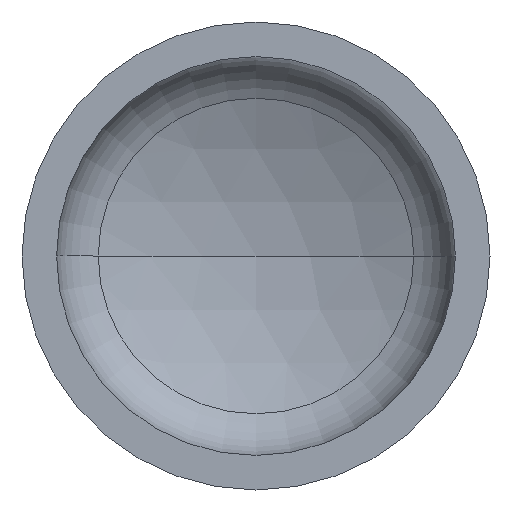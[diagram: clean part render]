
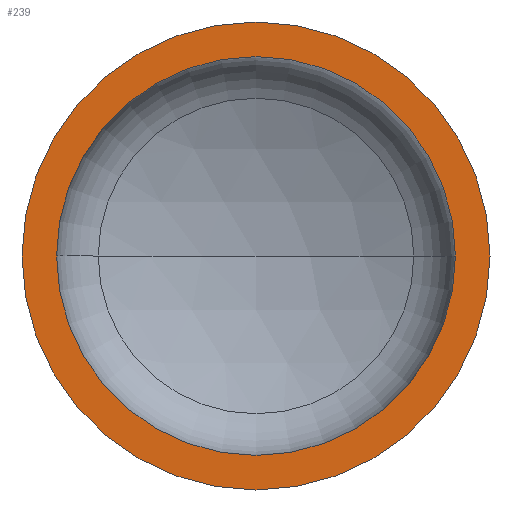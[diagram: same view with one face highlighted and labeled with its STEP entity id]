
A CAD part, front view. The second image highlights one B-rep face of the part: STEP entity #239.
In plain terms, the highlighted planar face has unit normal (0, -1, 0).
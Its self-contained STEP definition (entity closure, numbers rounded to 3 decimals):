
#4 = CIRCLE ( 'NONE', #70, 650. ) ;
#16 = AXIS2_PLACEMENT_3D ( 'NONE', #52, #195, #367 ) ;
#19 = VERTEX_POINT ( 'NONE', #181 ) ;
#20 = ORIENTED_EDGE ( 'NONE', *, *, #116, .T. ) ;
#27 = VERTEX_POINT ( 'NONE', #183 ) ;
#49 = ORIENTED_EDGE ( 'NONE', *, *, #117, .F. ) ;
#52 = CARTESIAN_POINT ( 'NONE',  ( -650., 0., 0. ) ) ;
#62 = AXIS2_PLACEMENT_3D ( 'NONE', #271, #219, #217 ) ;
#66 = CARTESIAN_POINT ( 'NONE',  ( 0., 0., 0. ) ) ;
#70 = AXIS2_PLACEMENT_3D ( 'NONE', #265, #263, #260 ) ;
#98 = ORIENTED_EDGE ( 'NONE', *, *, #348, .F. ) ;
#116 = EDGE_CURVE ( 'NONE', #27, #269, #4, .T. ) ;
#117 = EDGE_CURVE ( 'NONE', #19, #133, #314, .T. ) ;
#119 = EDGE_LOOP ( 'NONE', ( #122, #20 ) ) ;
#122 = ORIENTED_EDGE ( 'NONE', *, *, #364, .T. ) ;
#133 = VERTEX_POINT ( 'NONE', #214 ) ;
#134 = EDGE_LOOP ( 'NONE', ( #49, #98 ) ) ;
#149 = DIRECTION ( 'NONE',  ( 1., 0., 0. ) ) ;
#168 = PLANE ( 'NONE',  #16 ) ;
#181 = CARTESIAN_POINT ( 'NONE',  ( 554., 0., 0. ) ) ;
#183 = CARTESIAN_POINT ( 'NONE',  ( -650., 0., 0. ) ) ;
#195 = DIRECTION ( 'NONE',  ( 0., 1., 0. ) ) ;
#203 = AXIS2_PLACEMENT_3D ( 'NONE', #66, #301, #149 ) ;
#214 = CARTESIAN_POINT ( 'NONE',  ( -554., 0., 0. ) ) ;
#217 = DIRECTION ( 'NONE',  ( 1., 0., 0. ) ) ;
#219 = DIRECTION ( 'NONE',  ( 0., -1., 0. ) ) ;
#220 = FACE_OUTER_BOUND ( 'NONE', #119, .T. ) ;
#239 = ADVANCED_FACE ( 'NONE', ( #284, #220 ), #168, .F. ) ;
#255 = DIRECTION ( 'NONE',  ( 0., -1., 0. ) ) ;
#257 = AXIS2_PLACEMENT_3D ( 'NONE', #391, #255, #407 ) ;
#260 = DIRECTION ( 'NONE',  ( 1., 0., 0. ) ) ;
#263 = DIRECTION ( 'NONE',  ( 0., -1., 0. ) ) ;
#265 = CARTESIAN_POINT ( 'NONE',  ( 0., 0., 0. ) ) ;
#268 = CIRCLE ( 'NONE', #203, 554. ) ;
#269 = VERTEX_POINT ( 'NONE', #277 ) ;
#271 = CARTESIAN_POINT ( 'NONE',  ( 0., 0., 0. ) ) ;
#277 = CARTESIAN_POINT ( 'NONE',  ( 650., 0., 0. ) ) ;
#284 = FACE_BOUND ( 'NONE', #134, .T. ) ;
#301 = DIRECTION ( 'NONE',  ( 0., -1., 0. ) ) ;
#314 = CIRCLE ( 'NONE', #62, 554. ) ;
#348 = EDGE_CURVE ( 'NONE', #133, #19, #268, .T. ) ;
#364 = EDGE_CURVE ( 'NONE', #269, #27, #373, .T. ) ;
#367 = DIRECTION ( 'NONE',  ( -1., 0., 0. ) ) ;
#373 = CIRCLE ( 'NONE', #257, 650. ) ;
#391 = CARTESIAN_POINT ( 'NONE',  ( 0., 0., 0. ) ) ;
#407 = DIRECTION ( 'NONE',  ( 1., 0., 0. ) ) ;
